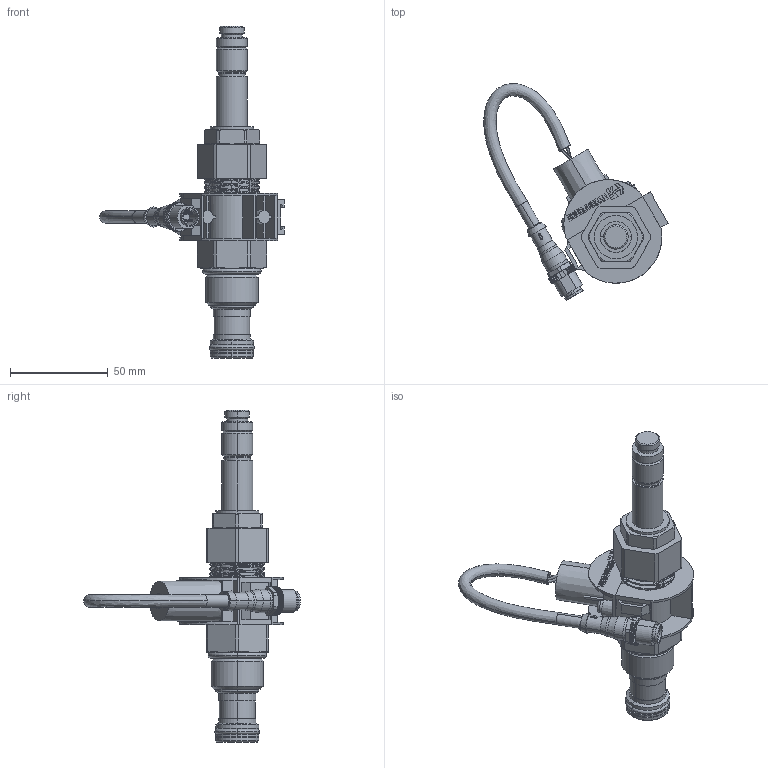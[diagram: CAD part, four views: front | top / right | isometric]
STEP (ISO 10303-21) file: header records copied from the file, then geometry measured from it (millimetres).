
FILE_DESCRIPTION((''),'2;1');
FILE_NAME('ASM0001_ASM','2021-04-07T10:34:14',('CY1'),(''),'CREO PARAMETRIC BY PTC INC, 2018020','CREO PARAMETRIC BY PTC INC, 2018020','');
FILE_SCHEMA(('CONFIG_CONTROL_DESIGN'));
Products named in the file (3): PRT0002; M12_SENSOR_ASSEMBLY; ASM0001_ASM
Assembly tree (2 placements, depth 2):
  ASM0001_ASM
    PRT0002
    M12_SENSOR_ASSEMBLY
Bounding box: 94.55 x 111.16 x 170.12 mm (x, y, z)
Volume: 105570.2 mm3; surface area: 42301.6 mm2
Topology: 2 solids, 2 shells, 1049 faces, 2932 edges, 1905 vertices
Faces by surface type: plane 498, cylinder 311, bspline 78, cone 74, extrusion 64, torus 24
Entity records: 43219 total; most frequent: CARTESIAN_POINT 17309, ORIENTED_EDGE 5856, DIRECTION 4631, EDGE_CURVE 2928, VERTEX_POINT 1905, VECTOR 1705, LINE 1641, AXIS2_PLACEMENT_3D 1463
